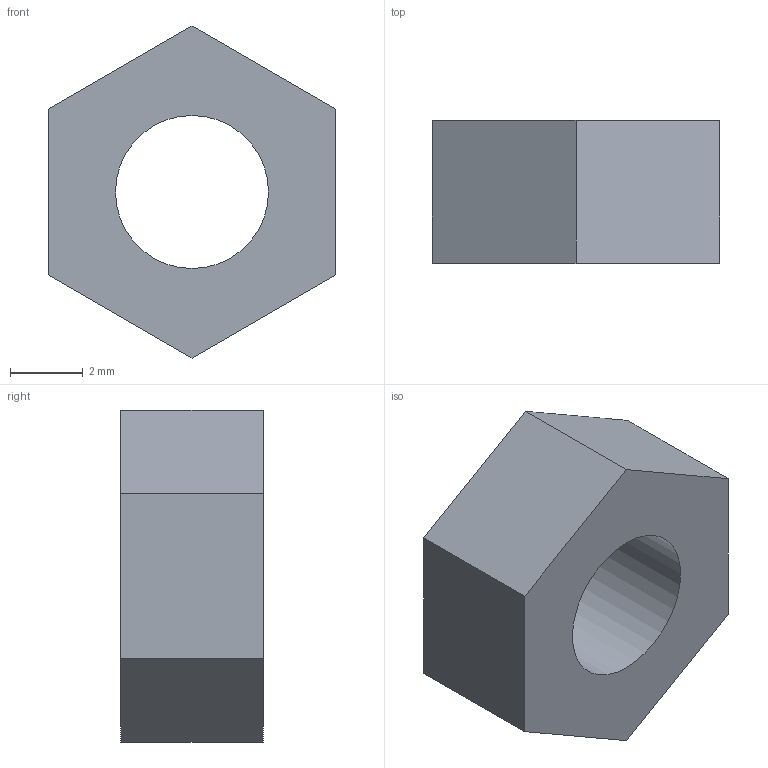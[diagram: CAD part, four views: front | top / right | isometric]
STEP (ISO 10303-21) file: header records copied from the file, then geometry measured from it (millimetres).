
FILE_DESCRIPTION(/* description */ ('STEP AP242 Edition 2','CAx-IF Rec.Pracs.---Representation and Presentation of Product Manufacturing Information (PMI)---4.0---2014-10-13','CAx-IF Rec.Pracs.---3D Tessellated Geometry---0.4---2014-09-14','2;1','CAx-IF Rec.Pracs.---User Defined Attributes---1.5---2016-08-15'),/* implementation_level */ '2;1');
FILE_NAME(/* name */ 'Assembly 1 - mutter_2',/* time_stamp */ '2026-02-04T12:55:11Z',/* author */ (''),/* organization */ (''),/* preprocessor_version */ 'ST-DEVELOPER v20',/* originating_system */ 'ONSHAPE BY PTC INC, 1.210',/* authorisation */ ' ');
FILE_SCHEMA (('AP242_MANAGED_MODEL_BASED_3D_ENGINEERING_MIM_LF { 1 0 10303 442 3 1 4 }'));
Length unit declared in the file: metre
Products named in the file (1): mutter_2
Bounding box: 7.93 x 3.94 x 9.16 mm (x, y, z)
Volume: 159.5 mm3; surface area: 241.4 mm2
Topology: 1 solids, 1 shells, 9 faces, 21 edges, 14 vertices
Faces by surface type: plane 8, cylinder 1
Full cylindrical faces by diameter (mm): 4.22 x1
Entity records: 278 total; most frequent: CARTESIAN_POINT 44, DIRECTION 42, ORIENTED_EDGE 40, EDGE_CURVE 20, LINE 18, VECTOR 18, VERTEX_POINT 14, EDGE_LOOP 12
